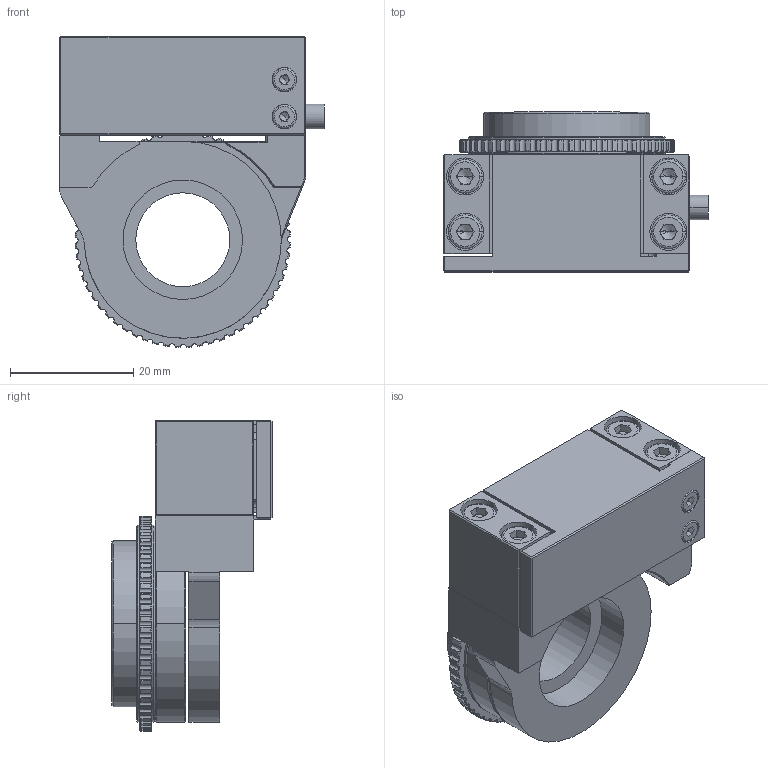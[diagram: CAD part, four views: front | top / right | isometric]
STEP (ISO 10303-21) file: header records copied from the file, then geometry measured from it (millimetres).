
FILE_DESCRIPTION (( 'STEP AP214' ), '1' );
FILE_NAME ('P72.Z100-B5-25.09.03.STEP', '2025-09-03T06:02:26', ( 'Windows User' ), ( 'P R C' ), 'SwSTEP 2.0', 'SolidWorks 2016', '' );
FILE_SCHEMA (( 'AUTOMOTIVE_DESIGN' ));
Length unit declared in the file: millimetre
Products named in the file (1): P72.Z100-B5-25.09.03
Bounding box: 43 x 26 x 50.49 mm (x, y, z)
Volume: 22351.6 mm3; surface area: 16329.3 mm2
Topology: 12 solids, 12 shells, 633 faces, 1664 edges, 1062 vertices
Faces by surface type: cylinder 254, plane 199, cone 168, torus 12
Entity records: 26937 total; most frequent: CARTESIAN_POINT 4179, DIRECTION 3359, ORIENTED_EDGE 3288, EDGE_CURVE 1644, AXIS2_PLACEMENT_3D 1342, VERTEX_POINT 1062, CIRCLE 708, EDGE_LOOP 684
